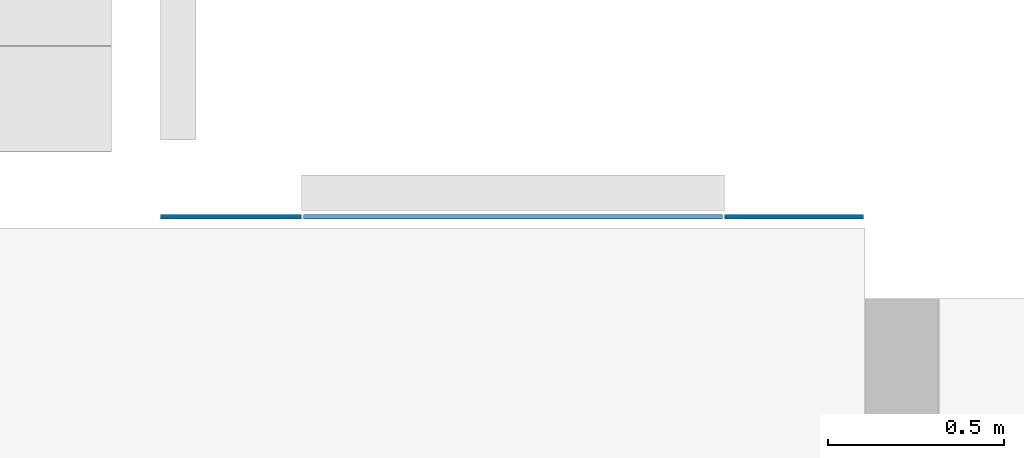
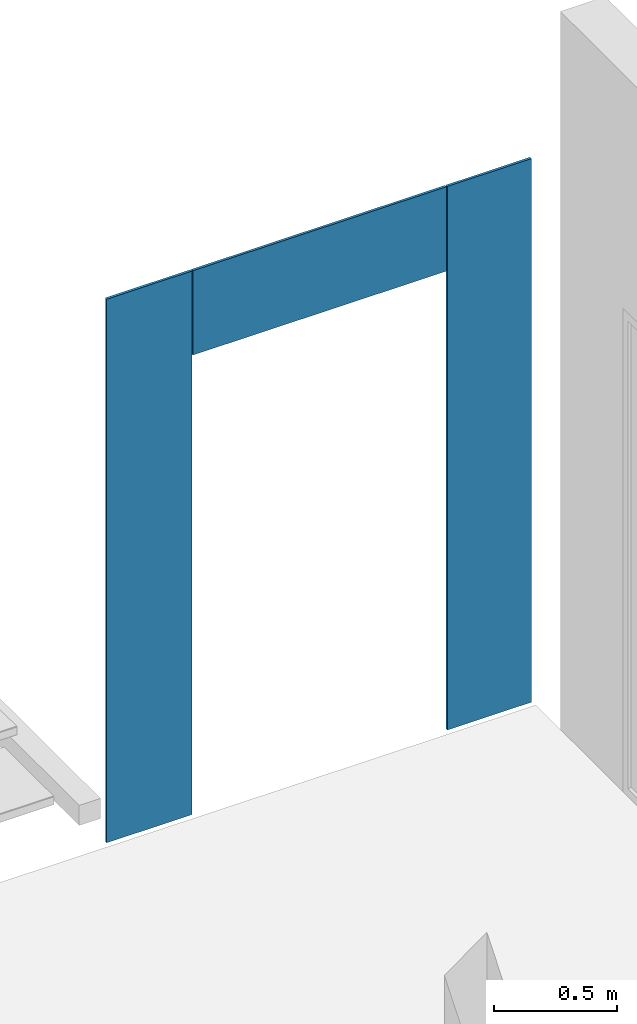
# One storey, part 11 of 65: 3 walls.
"""IFC2X3 building model written with IfcOpenShell, lengths in millimetres."""

import ifcopenshell
import ifcopenshell.guid

model = None  # the IFC model being written
_history = None  # IfcOwnerHistory: only IFC2X3 demands one
_inside = {}  # id of a spatial element -> (the spatial element, [elements in it])
_under = {}  # id of a project, library or spatial element -> (it, [spatial elements below it])
_declared = {}  # id of a project -> (the project, [libraries it declares])
_typed = {}  # id of a type object -> (the type object, [elements of that type])
_made_of = {}  # id of a material, layer set ... -> (it, [elements and type objects made of it])


def new_model(schema):
    """Start an empty IFC model of exactly this schema.

    Asked for "IFC4X3", IfcOpenShell would pick the latest addendum, in which some entities
    have other attributes; the version numbers below select the first issue.
    IFC2X3 requires an IfcOwnerHistory on every rooted entity: one is made here for all.
    """
    global model, _history
    if schema == "IFC4X3":
        model = ifcopenshell.file(schema_version=(4, 3, 0, 0))
    else:
        model = ifcopenshell.file(schema=schema)
    _inside.clear()
    _under.clear()
    _declared.clear()
    _typed.clear()
    _made_of.clear()
    _history = None
    if model.schema == "IFC2X3":
        org = make("IfcOrganization", Name="unknown")
        user = make(
            "IfcPersonAndOrganization",
            ThePerson=make("IfcPerson", FamilyName="unknown"),
            TheOrganization=org,
        )
        app = make(
            "IfcApplication",
            ApplicationDeveloper=org,
            Version="unknown",
            ApplicationFullName="unknown",
            ApplicationIdentifier="unknown",
        )
        _history = make(
            "IfcOwnerHistory",
            OwningUser=user,
            OwningApplication=app,
            ChangeAction="ADDED",
            CreationDate=0,
        )
    return model


def make(cls, **values):
    """One entity of the class cls with the attributes given. An attribute that is None is left unset."""
    return model.create_entity(
        cls, **{name: value for name, value in values.items() if value is not None}
    )


def entity(cls, *values):
    """Any entity or typed value of the class cls, its attributes in the order of the schema. None: left unset."""
    e = model.create_entity(cls)
    for i, value in enumerate(values):
        if value is not None:
            e[i] = value
    return e


def rooted(cls, **values):
    """An entity with a GlobalId (a new one), such as an element, a storey or a relation."""
    return make(cls, GlobalId=ifcopenshell.guid.new(), OwnerHistory=_history, **values)


def si_unit(unit_type, name, prefix=None):
    """IfcSIUnit, for example si_unit("LENGTHUNIT", "METRE", prefix="MILLI")."""
    return make("IfcSIUnit", UnitType=unit_type, Prefix=prefix, Name=name)


def converted_unit(unit_type, name, factor, base, dimensions=None, offset=None):
    """IfcConversionBasedUnit, such as the inch: factor (a typed value) times the base unit."""
    return make(
        "IfcConversionBasedUnit"
        if offset is None
        else "IfcConversionBasedUnitWithOffset",
        ConversionOffset=offset,
        Dimensions=None
        if dimensions is None
        else entity("IfcDimensionalExponents", *dimensions),
        UnitType=unit_type,
        Name=name,
        ConversionFactor=make(
            "IfcMeasureWithUnit", ValueComponent=factor, UnitComponent=base
        ),
    )


def derived_unit(unit_type, elements):
    """IfcDerivedUnit: a product of units, each with its exponent."""
    return make(
        "IfcDerivedUnit",
        Elements=[
            make("IfcDerivedUnitElement", Unit=unit, Exponent=power)
            for unit, power in elements
        ],
        UnitType=unit_type,
    )


def money_unit(currency):
    """IfcMonetaryUnit."""
    return make("IfcMonetaryUnit", Currency=currency)


def assignment(units):
    """IfcUnitAssignment: the units of a project."""
    return None if units is None else make("IfcUnitAssignment", Units=units)


def point(xyz):
    """IfcCartesianPoint."""
    return None if xyz is None else make("IfcCartesianPoint", Coordinates=xyz)


def direction(xyz):
    """IfcDirection."""
    return None if xyz is None else make("IfcDirection", DirectionRatios=xyz)


def frame(location, z_axis=None, x_axis=None):
    """IfcAxis2Placement3D, a coordinate frame: its origin and axes. An axis left out is left unset."""
    return make(
        "IfcAxis2Placement3D",
        Location=point(location),
        Axis=direction(z_axis),
        RefDirection=direction(x_axis),
    )


def origin_with_axes():
    """The frame at (0, 0, 0) with the z axis (0, 0, 1) and the x axis (1, 0, 0) written out."""
    return frame((0.0, 0.0, 0.0), z_axis=(0.0, 0.0, 1.0), x_axis=(1.0, 0.0, 0.0))


def place(relative_to, where):
    """IfcLocalPlacement: puts the frame where relative to a parent placement (None: the world)."""
    return make(
        "IfcLocalPlacement", PlacementRelTo=relative_to, RelativePlacement=where
    )


def context(
    kind, dimensions, precision=None, world=None, true_north=None, identifier=None
):
    """IfcGeometricRepresentationContext, for example the 3D "Model" context."""
    return make(
        "IfcGeometricRepresentationContext",
        ContextIdentifier=identifier,
        ContextType=kind,
        CoordinateSpaceDimension=dimensions,
        Precision=precision,
        WorldCoordinateSystem=world,
        TrueNorth=true_north,
    )


def subcontext(parent, identifier, kind, view, scale=None):
    """IfcGeometricRepresentationSubContext, for example "Body" below "Model"."""
    return make(
        "IfcGeometricRepresentationSubContext",
        ContextIdentifier=identifier,
        ContextType=kind,
        ParentContext=parent,
        TargetScale=scale,
        TargetView=view,
    )


def project(units=None, contexts=None):
    """IfcProject with its units and contexts."""
    return rooted(
        "IfcProject",
        Name="project",
        RepresentationContexts=contexts,
        UnitsInContext=assignment(units),
    )


def spatial(cls, under=None, at=None, **own):
    """A site, building, storey or space (cls), placed at a placement, below another one or the project."""
    s = rooted(cls, ObjectPlacement=at, **own)
    if under is not None:
        _under.setdefault(under.id(), (under, []))[1].append(s)
    return s


def polyline(points):
    """IfcPolyline through the points."""
    return make("IfcPolyline", Points=[point(p) for p in points])


def outline(outer, holes=None, kind="AREA"):
    """IfcArbitraryClosedProfileDef: a profile drawn as a closed curve; with holes, ...WithVoids."""
    if holes is None:
        return make("IfcArbitraryClosedProfileDef", ProfileType=kind, OuterCurve=outer)
    return make(
        "IfcArbitraryProfileDefWithVoids",
        ProfileType=kind,
        OuterCurve=outer,
        InnerCurves=holes,
    )


def extrude(swept, where, along, depth):
    """IfcExtrudedAreaSolid: the profile swept, set in the frame where, extruded along a direction by depth."""
    return make(
        "IfcExtrudedAreaSolid",
        SweptArea=swept,
        Position=where,
        ExtrudedDirection=direction(along),
        Depth=depth,
    )


def shape(context_of_items, identifier, shape_type, items):
    """IfcShapeRepresentation: the items that make up one representation, for example the "Body"."""
    return make(
        "IfcShapeRepresentation",
        ContextOfItems=context_of_items,
        RepresentationIdentifier=identifier,
        RepresentationType=shape_type,
        Items=items,
    )


def material(Name=None, Category=None):
    """IfcMaterial."""
    return make("IfcMaterial", Name=Name, Category=Category)


def layer(
    of_material, thickness, ventilated=None, Name=None, Category=None, Priority=None
):
    """IfcMaterialLayer: one layer of a wall or slab, of a material (None: an air gap)."""
    return make(
        "IfcMaterialLayer",
        Material=of_material,
        LayerThickness=thickness,
        IsVentilated=ventilated,
        Name=Name,
        Category=Category,
        Priority=Priority,
    )


def layer_set(layers, Name=None):
    """IfcMaterialLayerSet."""
    return make("IfcMaterialLayerSet", MaterialLayers=layers, LayerSetName=Name)


def layer_usage(for_layer_set, set_direction, sense, offset, extent=None):
    """IfcMaterialLayerSetUsage: how a layer set lies in its element."""
    return make(
        "IfcMaterialLayerSetUsage",
        ForLayerSet=for_layer_set,
        LayerSetDirection=set_direction,
        DirectionSense=sense,
        OffsetFromReferenceLine=offset,
        ReferenceExtent=extent,
    )


def made_of(thing, what):
    """Note that an element or type object is made of a material, layer set ...; save() writes the relation."""
    if what is not None:
        _made_of.setdefault(what.id(), (what, []))[1].append(thing)
    return thing


def type_object(cls, material=None, **own):
    """A type object (cls), such as IfcWallType, which elements share."""
    return made_of(rooted(cls, **own), material)


def element(
    cls,
    number,
    at=None,
    inside=None,
    cuts=None,
    type_object=None,
    material=None,
    context=None,
    identifier="Body",
    shape_type=None,
    held_by="IfcProductDefinitionShape",
    body=None,
    shapes=None,
    **own,
):
    """One element of the class cls, such as IfcWall. Its Tag is "e" and its number.

    at: its placement. inside: the storey or other place that contains it. cuts: it is an
    opening in that element (IfcRelVoidsElement). A single representation is given by context,
    identifier, shape_type and body (its items); several are given by shapes. held_by: the class
    of the entity that holds the representations. save() writes the other relations.
    """
    e = rooted(cls, Tag="e%d" % number, ObjectPlacement=at, **own)
    if body is not None:
        shapes = [shape(context, identifier, shape_type, body)]
    if shapes is not None:
        e.Representation = make(held_by, Representations=shapes)
    if inside is not None:
        _inside.setdefault(inside.id(), (inside, []))[1].append(e)
    if cuts is not None:
        rooted(
            "IfcRelVoidsElement", RelatingBuildingElement=cuts, RelatedOpeningElement=e
        )
    if type_object is not None:
        _typed.setdefault(type_object.id(), (type_object, []))[1].append(e)
    return made_of(e, material)


def aggregate(whole, parts):
    """IfcRelAggregates: a whole, such as a stair, and the parts it consists of."""
    return rooted("IfcRelAggregates", RelatingObject=whole, RelatedObjects=parts)


def save(model, path):
    """Write the relations noted so far, then the file.

    IfcRelAggregates (storeys below a building ...), IfcRelContainedInSpatialStructure (elements
    in a storey), IfcRelDefinesByType, IfcRelAssociatesMaterial and IfcRelDeclares: one each for
    every whole, place, type object, material and project.
    """
    for whole, parts in _under.values():
        aggregate(whole, parts)
    for where, things in _inside.values():
        rooted(
            "IfcRelContainedInSpatialStructure",
            RelatedElements=things,
            RelatingStructure=where,
        )
    for kind, things in _typed.values():
        rooted("IfcRelDefinesByType", RelatedObjects=things, RelatingType=kind)
    for what, things in _made_of.values():
        rooted("IfcRelAssociatesMaterial", RelatedObjects=things, RelatingMaterial=what)
    for by, libraries in _declared.values():
        rooted("IfcRelDeclares", RelatingContext=by, RelatedDefinitions=libraries)
    model.write(path)


model = new_model("IFC2X3")

# Units and contexts
model_context = context("Model", 3, precision=0.01, world=origin_with_axes(), true_north=direction((0.0, 1.0)))
body_context = subcontext(model_context, "Body", "Model", "MODEL_VIEW")
ifc_project = project(units=[si_unit("LENGTHUNIT", "METRE", prefix="MILLI"), si_unit("AREAUNIT", "SQUARE_METRE"), si_unit("VOLUMEUNIT", "CUBIC_METRE"), converted_unit("PLANEANGLEUNIT", "DEGREE", entity("IfcPlaneAngleMeasure", 0.0174532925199), si_unit("PLANEANGLEUNIT", "RADIAN"), dimensions=[0, 0, 0, 0, 0, 0, 0]), si_unit("SOLIDANGLEUNIT", "STERADIAN"), money_unit("EUR"), converted_unit("TIMEUNIT", "Year", entity("IfcTimeMeasure", 31556926.0), si_unit("TIMEUNIT", "SECOND"), dimensions=[0, 0, 1, 0, 0, 0, 0]), si_unit("MASSUNIT", "GRAM", prefix="KILO"), si_unit("THERMODYNAMICTEMPERATUREUNIT", "DEGREE_CELSIUS"), si_unit("LUMINOUSINTENSITYUNIT", "LUMEN"), si_unit("ENERGYUNIT", "JOULE", prefix="MEGA"), derived_unit("THERMALCONDUCTANCEUNIT", [(si_unit("POWERUNIT", "WATT"), 1), (si_unit("LENGTHUNIT", "METRE"), -1), (si_unit("THERMODYNAMICTEMPERATUREUNIT", "KELVIN"), -1)]), derived_unit("SPECIFICHEATCAPACITYUNIT", [(si_unit("ENERGYUNIT", "JOULE"), 1), (si_unit("MASSUNIT", "GRAM", prefix="KILO"), -1), (si_unit("THERMODYNAMICTEMPERATUREUNIT", "KELVIN"), -1)]), derived_unit("MASSDENSITYUNIT", [(si_unit("MASSUNIT", "GRAM", prefix="KILO"), 1), (si_unit("VOLUMEUNIT", "CUBIC_METRE"), -1)])], contexts=[model_context])

# Site, building, storey
site_placement = place(None, origin_with_axes())
site = spatial("IfcSite", under=ifc_project, at=site_placement, Name="Puškini 31, Narva", CompositionType="ELEMENT")
building_placement = place(site_placement, origin_with_axes())
building = spatial("IfcBuilding", under=site, at=building_placement, Name="Narva Riigigümnaasium", CompositionType="ELEMENT")
storey_placement = place(building_placement, frame((0.0, 0.0, -1320.0), z_axis=(0.0, 0.0, 1.0), x_axis=(1.0, 0.0, 0.0)))
storey = spatial("IfcBuildingStorey", under=building, at=storey_placement, Name="1.korrus -1.32", CompositionType="ELEMENT", Elevation=-1320.0)

# Walls
ifc_material = material(Name="Klaas")
ifc_layer = layer(ifc_material, 12.0, ventilated="UNKNOWN")
ifc_layer_set = layer_set([ifc_layer], Name="Klaas 12")
ifc_layer_usage = layer_usage(ifc_layer_set, "AXIS2", "POSITIVE", -12.0)
wall_type = type_object("IfcWallType", Name="Klaas 12", PredefinedType="NOTDEFINED")
wall_1_placement = place(storey_placement, frame((45499.9999993, 194938.0, 0.0), z_axis=(0.0, 0.0, 1.0), x_axis=(1.0, 0.0, 0.0)))
element("IfcWallStandardCase", 1, at=wall_1_placement, inside=storey, type_object=wall_type, material=ifc_layer_usage, Name="Sisesein", context=body_context, shape_type="SweptSolid", body=[
    extrude(outline(polyline([(0.0, -12.0), (400.0, -12.0), (400.0, 0.0), (0.0, 0.0), (0.0, -12.0)])), origin_with_axes(), (0.0, 0.0, 1.0), 2699.0),
])
wall_2_placement = place(storey_placement, frame((47099.9999993, 194938.0, 0.0), z_axis=(0.0, 0.0, 1.0), x_axis=(1.0, 0.0, 0.0)))
element("IfcWallStandardCase", 2, at=wall_2_placement, inside=storey, type_object=wall_type, material=ifc_layer_usage, Name="Sisesein", context=body_context, shape_type="SweptSolid", body=[
    extrude(outline(polyline([(0.0, -12.0), (395.0, -12.0), (395.0, 0.0), (0.0, 0.0), (0.0, -12.0)])), origin_with_axes(), (0.0, 0.0, 1.0), 2699.0),
])
wall_3_placement = place(storey_placement, frame((45905.0, 194938.0, 2280.00001822), z_axis=(0.0, 0.0, 1.0), x_axis=(1.0, 0.0, 0.0)))
element("IfcWallStandardCase", 3, at=wall_3_placement, inside=storey, type_object=wall_type, material=ifc_layer_usage, Name="Sisesein", context=body_context, shape_type="SweptSolid", body=[
    extrude(outline(polyline([(0.0, -12.0), (1190.0, -12.0), (1190.0, 0.0), (0.0, 0.0), (0.0, -12.0)])), origin_with_axes(), (0.0, 0.0, 1.0), 418.999981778),
])

save(model, "model.ifc")
